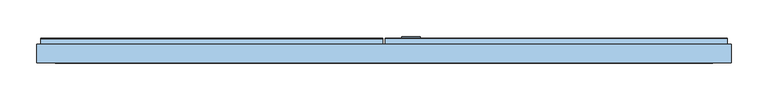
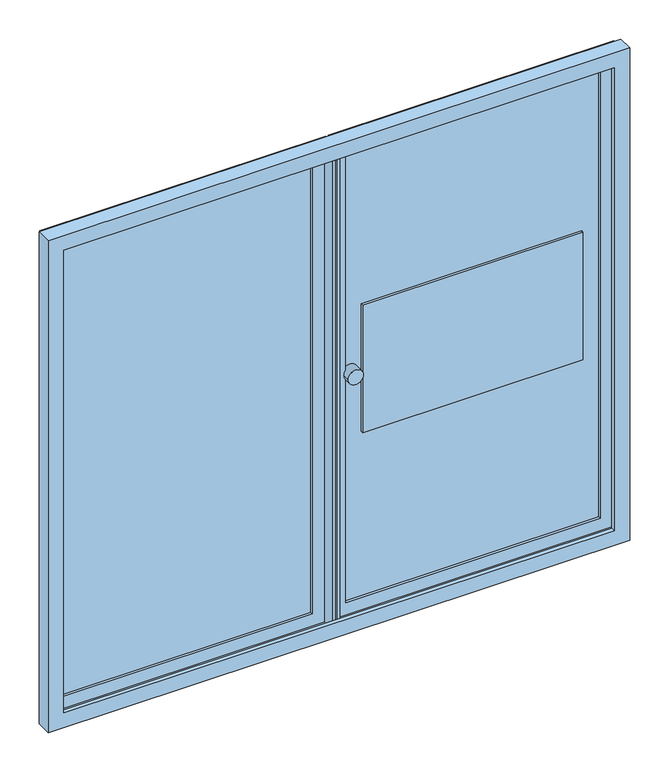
"""IFC4 building model written with IfcOpenShell, lengths in millimetres: window geometry, H108 Puertas nichos con visor : H108.3 Puertas nichos con visor."""

from ifc_helpers import new_model, si_unit, point, frame, frame_2d, origin, place, context, project, spatial, polyline, circle_curve, trimmed, segment, composite_curve, outline, extrude, faceted_brep, source, transform, mapped, element, save


def window_d906ba14(model_context):
    return source(origin(), model_context, "Body", "SolidModel", [
        extrude(outline(composite_curve([segment(trimmed(circle_curve(frame_2d((1225.0, 37.0)), 12.5), [point((1225.0, 24.5))], [point((1225.0, 49.5))], False, "CARTESIAN"), True, "CONTINUOUS"), segment(trimmed(circle_curve(frame_2d((1225.0, 37.0)), 12.5), [point((1225.0, 49.5))], [point((1225.0, 24.5))], False, "CARTESIAN"), True, "CONTINUOUS")], self_intersect=False)), frame((0.0, 35.7, 0.0), z_axis=(0.0, 1.0, 0.0), x_axis=(0.0, 0.0, 1.0)), (0.0, 0.0, 1.0), 20.0),
        faceted_brep([(27.4, 52.4, 1618.6), (27.4, 47.9, 1618.6), (27.4, 47.9, 831.4), (27.4, 52.4, 831.4), (6.5, 47.9, 810.5), (464.5, 47.9, 810.5), (464.5, 47.9, 1639.5), (6.5, 47.9, 1639.5), (443.6, 47.9, 1618.6), (443.6, 47.9, 831.4), (443.6, 52.4, 831.4), (2.0, 52.4, 1644.0), (469.0, 52.4, 1644.0), (469.0, 52.4, 806.0), (2.0, 52.4, 806.0), (443.6, 52.4, 1618.6), (6.5, 27.0, 1639.5), (6.5, 27.0, 810.5), (2.0, 27.0, 806.0), (469.0, 27.0, 806.0), (469.0, 27.0, 1644.0), (2.0, 27.0, 1644.0), (464.5, 27.0, 1639.5), (464.5, 27.0, 810.5)], [[[0, 1, 2, 3]], [[4, 5, 6, 7], [1, 8, 9, 2]], [[3, 2, 9, 10]], [[11, 12, 13, 14], [3, 10, 15, 0]], [[7, 16, 17, 4]], [[18, 19, 20, 21], [16, 22, 23, 17]], [[4, 17, 23, 5]], [[21, 11, 14, 18]], [[18, 14, 13, 19]], [[10, 9, 8, 15]], [[5, 23, 22, 6]], [[19, 13, 12, 20]], [[15, 8, 1, 0]], [[6, 22, 16, 7]], [[20, 12, 11, 21]]]),
        extrude(outline(polyline([(1644.0, 2.0), (806.0, 2.0), (806.0, 469.0), (1644.0, 469.0), (1644.0, 2.0)]), holes=[polyline([(1335.0, 55.5), (1335.0, 415.5), (1115.0, 415.5), (1115.0, 55.5), (1335.0, 55.5)])]), frame((0.0, 52.4, 0.0), z_axis=(0.0, 1.0, 0.0), x_axis=(0.0, 0.0, 1.0)), (0.0, 0.0, 1.0), 1.3),
        extrude(outline(polyline([(-2.0, 52.4), (-469.0, 52.4), (-469.0, 53.7), (-2.0, 53.7), (-2.0, 52.4)])), frame((0.0, 0.0, 806.0), z_axis=(0.0, 0.0, 1.0), x_axis=(1.0, 0.0, 0.0)), (0.0, 0.0, 1.0), 838.0),
        faceted_brep([(-2.0, 52.4, 1644.0), (-2.0, 27.0, 1644.0), (-2.0, 27.0, 806.0), (-2.0, 52.4, 806.0), (-469.0, 27.0, 1644.0), (-469.0, 27.0, 806.0), (-6.5, 27.0, 810.5), (-464.5, 27.0, 810.5), (-464.5, 27.0, 1639.5), (-6.5, 27.0, 1639.5), (-469.0, 52.4, 806.0), (-469.0, 52.4, 1644.0), (-27.4, 52.4, 1618.6), (-443.6, 52.4, 1618.6), (-443.6, 52.4, 831.4), (-27.4, 52.4, 831.4), (-6.5, 47.9, 1639.5), (-6.5, 47.9, 810.5), (-464.5, 47.9, 1639.5), (-464.5, 47.9, 810.5), (-27.4, 47.9, 831.4), (-443.6, 47.9, 831.4), (-443.6, 47.9, 1618.6), (-27.4, 47.9, 1618.6)], [[[0, 1, 2, 3]], [[1, 4, 5, 2], [6, 7, 8, 9]], [[3, 2, 5, 10]], [[3, 10, 11, 0], [12, 13, 14, 15]], [[9, 16, 17, 6]], [[16, 18, 19, 17], [20, 21, 22, 23]], [[6, 17, 19, 7]], [[23, 12, 15, 20]], [[20, 15, 14, 21]], [[10, 5, 4, 11]], [[7, 19, 18, 8]], [[21, 14, 13, 22]], [[11, 4, 1, 0]], [[8, 18, 16, 9]], [[22, 13, 12, 23]]]),
        faceted_brep([(-475.0, 19.7, 1650.0), (-475.0, 45.1, 1650.0), (-475.0, 45.1, 800.0), (-475.0, 19.7, 800.0), (475.0, 45.1, 1650.0), (475.0, 45.1, 800.0), (-469.0, 45.1, 806.0), (469.0, 45.1, 806.0), (469.0, 45.1, 1644.0), (-469.0, 45.1, 1644.0), (475.0, 19.7, 800.0), (475.0, 19.7, 1650.0), (-449.6, 19.7, 1624.6), (449.6, 19.7, 1624.6), (449.6, 19.7, 825.4), (-449.6, 19.7, 825.4), (-469.0, 25.7, 1644.0), (-469.0, 25.7, 806.0), (469.0, 25.7, 1644.0), (469.0, 25.7, 806.0), (-449.6, 25.7, 825.4), (449.6, 25.7, 825.4), (449.6, 25.7, 1624.6), (-449.6, 25.7, 1624.6)], [[[0, 1, 2, 3]], [[1, 4, 5, 2], [6, 7, 8, 9]], [[3, 2, 5, 10]], [[3, 10, 11, 0], [12, 13, 14, 15]], [[9, 16, 17, 6]], [[16, 18, 19, 17], [20, 21, 22, 23]], [[6, 17, 19, 7]], [[23, 12, 15, 20]], [[20, 15, 14, 21]], [[10, 5, 4, 11]], [[7, 19, 18, 8]], [[21, 14, 13, 22]], [[11, 4, 1, 0]], [[8, 18, 16, 9]], [[22, 13, 12, 23]]]),
        extrude(outline(polyline([(55.5, 52.4), (415.5, 52.4), (415.5, 48.7), (55.5, 48.7), (55.5, 52.4)])), frame((0.0, 0.0, 1115.0), z_axis=(0.0, 0.0, 1.0), x_axis=(1.0, 0.0, 0.0)), (0.0, 0.0, 1.0), 220.0),
    ])


if __name__ == "__main__":
    model = new_model("IFC4")
    model_context = context("Model", 3, world=origin())
    ifc_project = project(units=[si_unit("LENGTHUNIT", "METRE", prefix="MILLI")], contexts=[model_context])
    site = spatial("IfcSite", under=ifc_project)
    building = spatial("IfcBuilding", under=site)
    placement = place(None, origin())
    window_shape = window_d906ba14(model_context)
    element("IfcWindow", 1, ObjectType="H108 Puertas nichos con visor : H108.3 Puertas nichos con visor", at=placement, inside=building, context=model_context, shape_type="MappedRepresentation", body=[
        mapped(window_shape, transform((0.0, 0.0, 0.0), x_axis=(1.0, 0.0, 0.0), y_axis=(0.0, 1.0, 0.0), z_axis=(0.0, 0.0, 1.0))),
    ])
    save(model, "model.ifc")
